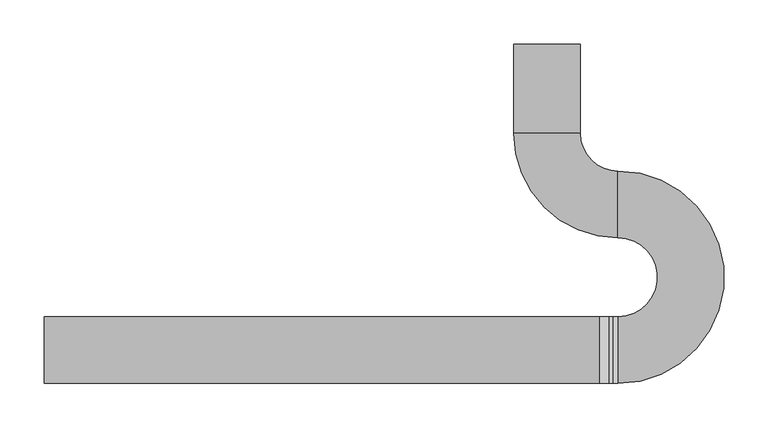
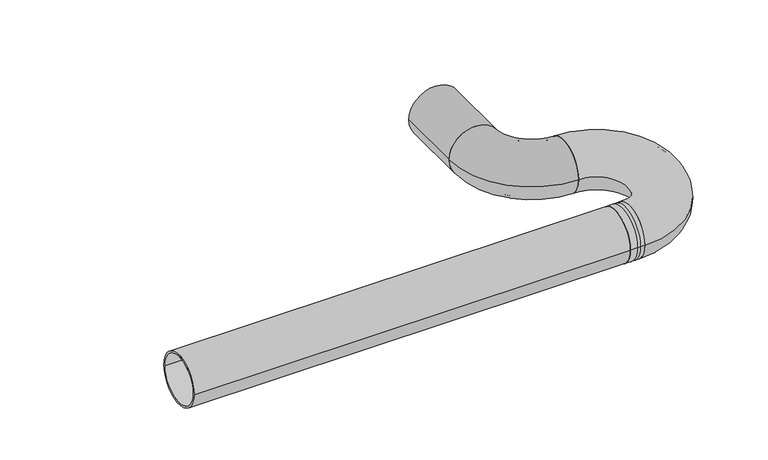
"""IFC4 building model written with IfcOpenShell, lengths in millimetres: pipe fitting geometry, Superdrain Trap : Superdrain Trap."""

from ifc_helpers import new_model, si_unit, point, frame, origin, origin_2d, place, context, project, spatial, polyline, circle_curve, ellipse_curve, trimmed, segment, composite_curve, outline, extrude, source, transform, mapped, element, save
from ifc_brep_helpers import plane_surface, cylinder_surface, revolved_surface, advanced_brep


def pipe_fitting_54a89096(model_context):
    return source(origin(), model_context, "Body", "SolidModel", [
        advanced_brep(
        [(80.0, 37.5, 0.0), (80.0, -37.5, 0.0), (74.5, -37.5, 0.0), (74.5, 37.5, 0.0), (80.0, 34.5, 0.0), (80.0, -34.5, 0.0), (74.5, 34.5, 0.0), (74.5, -34.5, 0.0), (69.5, 34.5, 0.0), (69.5, -34.5, 0.0), (59.5, 34.5, 0.0), (59.5, -34.5, 0.0), (59.5, 37.5, 0.0), (59.5, -37.5, 0.0), (69.5, 37.5, 0.0), (69.5, -37.5, 0.0)],
        [
            (0, 1, circle_curve(frame((80.0, 0.0, 0.0), z_axis=(-1.0, 0.0, 0.0), x_axis=(0.0, -1.0, 0.0)), 37.5)),
            (1, 2),
            (2, 3, circle_curve(frame((74.5, 0.0, 0.0), z_axis=(1.0, 0.0, 0.0), x_axis=(0.0, -1.0, 0.0)), 37.5)),
            (3, 0),
            (1, 0, circle_curve(frame((80.0, 0.0, 0.0), z_axis=(-1.0, 0.0, 0.0), x_axis=(0.0, -1.0, 0.0)), 37.5)),
            (3, 2, circle_curve(frame((74.5, 0.0, 0.0), z_axis=(1.0, 0.0, 0.0), x_axis=(0.0, -1.0, 0.0)), 37.5)),
            (4, 5, circle_curve(frame((80.0, 0.0, 0.0), z_axis=(-1.0, 0.0, 0.0), x_axis=(0.0, -1.0, 0.0)), 34.5)),
            (5, 1),
            (0, 4),
            (5, 4, circle_curve(frame((80.0, 0.0, 0.0), z_axis=(-1.0, 0.0, 0.0), x_axis=(0.0, -1.0, 0.0)), 34.5)),
            (6, 7, circle_curve(frame((74.5, 0.0, 0.0), z_axis=(-1.0, 0.0, 0.0), x_axis=(0.0, -1.0, 0.0)), 34.5)),
            (7, 5),
            (4, 6),
            (7, 6, circle_curve(frame((74.5, 0.0, 0.0), z_axis=(-1.0, 0.0, 0.0), x_axis=(0.0, -1.0, 0.0)), 34.5)),
            (8, 9, circle_curve(frame((69.5, 0.0, 0.0), z_axis=(-1.0, 0.0, 0.0), x_axis=(0.0, -1.0, 0.0)), 34.5)),
            (9, 7),
            (6, 8),
            (9, 8, circle_curve(frame((69.5, 0.0, 0.0), z_axis=(-1.0, 0.0, 0.0), x_axis=(0.0, -1.0, 0.0)), 34.5)),
            (10, 11, circle_curve(frame((59.5, 0.0, 0.0), z_axis=(-1.0, 0.0, 0.0), x_axis=(0.0, -1.0, 0.0)), 34.5)),
            (11, 9),
            (8, 10),
            (11, 10, circle_curve(frame((59.5, 0.0, 0.0), z_axis=(-1.0, 0.0, 0.0), x_axis=(0.0, -1.0, 0.0)), 34.5)),
            (12, 13, circle_curve(frame((59.5, 0.0, 0.0), z_axis=(-1.0, 0.0, 0.0), x_axis=(0.0, -1.0, 0.0)), 37.5)),
            (13, 11),
            (10, 12),
            (13, 12, circle_curve(frame((59.5, 0.0, 0.0), z_axis=(-1.0, 0.0, 0.0), x_axis=(0.0, -1.0, 0.0)), 37.5)),
            (14, 15, circle_curve(frame((69.5, 0.0, 0.0), z_axis=(-1.0, 0.0, 0.0), x_axis=(0.0, -1.0, 0.0)), 37.5)),
            (15, 13),
            (12, 14),
            (15, 14, circle_curve(frame((69.5, 0.0, 0.0), z_axis=(-1.0, 0.0, 0.0), x_axis=(0.0, -1.0, 0.0)), 37.5)),
            (2, 15),
            (14, 3),
        ],
        [
            cylinder_surface(frame((115.0, 0.0, 0.0), z_axis=(1.0, 0.0, 0.0), x_axis=(0.0, -1.0, 0.0)), 37.5),
            plane_surface(frame((80.0, 0.0, 0.0), z_axis=(1.0, 0.0, 0.0), x_axis=(0.0, -1.0, 0.0))),
            revolved_surface(polyline([(80.0, -34.5, 0.0), (74.5, -34.5, 0.0)]), (115.0, 0.0, 0.0), (1.0, 0.0, 0.0)),
            revolved_surface(polyline([(74.5, -34.5, 0.0), (69.5, -34.5, 0.0)]), (115.0, 0.0, 0.0), (1.0, 0.0, 0.0)),
            revolved_surface(polyline([(69.5, -34.5, 0.0), (59.5, -34.5, 0.0)]), (115.0, 0.0, 0.0), (1.0, 0.0, 0.0)),
            plane_surface(frame((59.5, 0.0, 0.0), z_axis=(-1.0, 0.0, 0.0), x_axis=(0.0, -1.0, 0.0))),
        ],
        [
            (0, [[1, 2, 3, 4]]),
            (0, [[5, -4, 6, -2]]),
            (1, [[7, 8, -1, 9]]),
            (1, [[10, -9, -5, -8]]),
            (2, [[11, 12, -7, 13]]),
            (2, [[14, -13, -10, -12]]),
            (3, [[15, 16, -11, 17]]),
            (3, [[18, -17, -14, -16]]),
            (4, [[19, 20, -15, 21]]),
            (4, [[22, -21, -18, -20]]),
            (5, [[23, 24, -19, 25]]),
            (5, [[26, -25, -22, -24]]),
            (0, [[27, 28, -23, 29]]),
            (0, [[30, -29, -26, -28]]),
            (0, [[-3, 31, -27, 32]]),
            (0, [[-6, -32, -30, -31]]),
        ],
    ),
        advanced_brep(
        [(80.0, 126.5, 0.0), (80.0, 201.5, 0.0), (80.0, 129.5, 0.0), (80.0, 198.5, 0.0), (80.0, 37.5, 0.0), (80.0, -37.5, 0.0), (80.0, 34.5, 0.0), (80.0, -34.5, 0.0)],
        [
            (0, 1, circle_curve(frame((80.0, 164.0, 0.0), z_axis=(-1.0, 0.0, 0.0), x_axis=(0.0, 1.0, 0.0)), 37.5)),
            (1, 0, circle_curve(frame((80.0, 164.0, 0.0), z_axis=(-1.0, 0.0, 0.0), x_axis=(0.0, 1.0, 0.0)), 37.5)),
            (2, 3, circle_curve(frame((80.0, 164.0, 0.0), z_axis=(1.0, 0.0, 0.0), x_axis=(0.0, 1.0, 0.0)), 34.5)),
            (3, 2, circle_curve(frame((80.0, 164.0, 0.0), z_axis=(1.0, 0.0, 0.0), x_axis=(0.0, 1.0, 0.0)), 34.5)),
            (4, 5, circle_curve(frame((80.0, 0.0, 0.0), z_axis=(-1.0, 0.0, 0.0), x_axis=(0.0, -1.0, 0.0)), 37.5)),
            (5, 4, circle_curve(frame((80.0, 0.0, 0.0), z_axis=(-1.0, 0.0, 0.0), x_axis=(0.0, -1.0, 0.0)), 37.5)),
            (6, 7, circle_curve(frame((80.0, 0.0, 0.0), z_axis=(1.0, 0.0, 0.0), x_axis=(0.0, -1.0, 0.0)), 34.5)),
            (7, 6, circle_curve(frame((80.0, 0.0, 0.0), z_axis=(1.0, 0.0, 0.0), x_axis=(0.0, -1.0, 0.0)), 34.5)),
            (7, 3, circle_curve(frame((80.0, 82.0, 0.0), z_axis=(0.0, 0.0, 1.0), x_axis=(0.0, 1.0, 0.0)), 116.5)),
            (2, 6, circle_curve(frame((80.0, 82.0, 0.0), z_axis=(0.0, 0.0, -1.0), x_axis=(0.0, 1.0, 0.0)), 47.5)),
            (5, 1, circle_curve(frame((80.0, 82.0, 0.0), z_axis=(0.0, 0.0, 1.0), x_axis=(0.0, 1.0, 0.0)), 119.5)),
            (0, 4, circle_curve(frame((80.0, 82.0, 0.0), z_axis=(0.0, 0.0, -1.0), x_axis=(0.0, 1.0, 0.0)), 44.5)),
        ],
        [
            plane_surface(frame((80.0, 164.0, 0.0), z_axis=(-1.0, 0.0, 0.0), x_axis=(0.0, 0.0, 1.0))),
            plane_surface(frame((80.0, 0.0, 0.0), z_axis=(-1.0, 0.0, 0.0), x_axis=(0.0, 0.0, 1.0))),
            revolved_surface(trimmed(ellipse_curve(frame((80.0, 164.0, 0.0), z_axis=(1.0, 0.0, 0.0), x_axis=(0.0, 1.0, 0.0)), 34.5, 34.5), [point((80.0, 129.5, 0.0))], [point((80.0, 198.5, 0.0))], True, "CARTESIAN"), (80.0, 82.0, 0.0), (0.0, 0.0, -1.0)),
            revolved_surface(trimmed(ellipse_curve(frame((80.0, 164.0, 0.0), z_axis=(1.0, 0.0, 0.0), x_axis=(0.0, 1.0, 0.0)), 34.5, 34.5), [point((80.0, 198.5, 0.0))], [point((80.0, 129.5, 0.0))], True, "CARTESIAN"), (80.0, 82.0, 0.0), (0.0, 0.0, -1.0)),
            revolved_surface(trimmed(ellipse_curve(frame((80.0, 164.0, 0.0), z_axis=(-1.0, 0.0, 0.0), x_axis=(0.0, 1.0, 0.0)), 37.5, 37.5), [point((80.0, 126.5, 0.0))], [point((80.0, 201.5, 0.0))], True, "CARTESIAN"), (80.0, 82.0, 0.0), (0.0, 0.0, -1.0)),
            revolved_surface(trimmed(ellipse_curve(frame((80.0, 164.0, 0.0), z_axis=(-1.0, 0.0, 0.0), x_axis=(0.0, 1.0, 0.0)), 37.5, 37.5), [point((80.0, 201.5, 0.0))], [point((80.0, 126.5, 0.0))], True, "CARTESIAN"), (80.0, 82.0, 0.0), (0.0, 0.0, -1.0)),
        ],
        [
            (0, [[1, 2], [3, 4]]),
            (1, [[5, 6], [7, 8]]),
            (2, [[9, -3, 10, -8]]),
            (3, [[-10, -4, -9, -7]]),
            (4, [[11, -1, 12, -6]]),
            (5, [[-12, -2, -11, -5]]),
        ],
    ),
        advanced_brep(
        [(-37.5, 244.0, 0.0), (37.5, 244.0, 0.0), (-34.5, 244.0, 0.0), (34.5, 244.0, 0.0), (80.0, 126.5, 0.0), (80.0, 201.5, 0.0), (80.0, 129.5, 0.0), (80.0, 198.5, 0.0)],
        [
            (0, 1, circle_curve(frame((0.0, 244.0, 0.0), z_axis=(0.0, 1.0, 0.0), x_axis=(1.0, 0.0, 0.0)), 37.5)),
            (1, 0, circle_curve(frame((0.0, 244.0, 0.0), z_axis=(0.0, 1.0, 0.0), x_axis=(1.0, 0.0, 0.0)), 37.5)),
            (2, 3, circle_curve(frame((0.0, 244.0, 0.0), z_axis=(0.0, -1.0, 0.0), x_axis=(1.0, 0.0, 0.0)), 34.5)),
            (3, 2, circle_curve(frame((0.0, 244.0, 0.0), z_axis=(0.0, -1.0, 0.0), x_axis=(1.0, 0.0, 0.0)), 34.5)),
            (4, 5, circle_curve(frame((80.0, 164.0, 0.0), z_axis=(1.0, 0.0, 0.0), x_axis=(0.0, 1.0, 0.0)), 37.5)),
            (5, 4, circle_curve(frame((80.0, 164.0, 0.0), z_axis=(1.0, 0.0, 0.0), x_axis=(0.0, 1.0, 0.0)), 37.5)),
            (6, 7, circle_curve(frame((80.0, 164.0, 0.0), z_axis=(-1.0, 0.0, 0.0), x_axis=(0.0, 1.0, 0.0)), 34.5)),
            (7, 6, circle_curve(frame((80.0, 164.0, 0.0), z_axis=(-1.0, 0.0, 0.0), x_axis=(0.0, 1.0, 0.0)), 34.5)),
            (5, 1, circle_curve(frame((80.0, 244.0, 0.0), z_axis=(0.0, 0.0, -1.0), x_axis=(-1.0, 0.0, 0.0)), 42.5)),
            (0, 4, circle_curve(frame((80.0, 244.0, 0.0), z_axis=(0.0, 0.0, 1.0), x_axis=(-1.0, 0.0, 0.0)), 117.5)),
            (7, 3, circle_curve(frame((80.0, 244.0, 0.0), z_axis=(0.0, 0.0, -1.0), x_axis=(-1.0, 0.0, 0.0)), 45.5)),
            (2, 6, circle_curve(frame((80.0, 244.0, 0.0), z_axis=(0.0, 0.0, 1.0), x_axis=(-1.0, 0.0, 0.0)), 114.5)),
        ],
        [
            plane_surface(frame((0.0, 244.0, 0.0), z_axis=(0.0, 1.0, 0.0), x_axis=(0.0, 0.0, 1.0))),
            plane_surface(frame((80.0, 164.0, 0.0), z_axis=(1.0, 0.0, 0.0), x_axis=(0.0, 0.0, 1.0))),
            revolved_surface(trimmed(ellipse_curve(frame((0.0, 244.0, 0.0), z_axis=(0.0, 1.0, 0.0), x_axis=(1.0, 0.0, 0.0)), 37.5, 37.5), [point((-37.5, 244.0, 0.0))], [point((37.5, 244.0, 0.0))], True, "CARTESIAN"), (80.0, 244.0, 0.0), (0.0, 0.0, 1.0)),
            revolved_surface(trimmed(ellipse_curve(frame((0.0, 244.0, 0.0), z_axis=(0.0, 1.0, 0.0), x_axis=(1.0, 0.0, 0.0)), 37.5, 37.5), [point((37.5, 244.0, 0.0))], [point((-37.5, 244.0, 0.0))], True, "CARTESIAN"), (80.0, 244.0, 0.0), (0.0, 0.0, 1.0)),
            revolved_surface(trimmed(ellipse_curve(frame((0.0, 244.0, 0.0), z_axis=(0.0, -1.0, 0.0), x_axis=(1.0, 0.0, 0.0)), 34.5, 34.5), [point((-34.5, 244.0, 0.0))], [point((34.5, 244.0, 0.0))], True, "CARTESIAN"), (80.0, 244.0, 0.0), (0.0, 0.0, 1.0)),
            revolved_surface(trimmed(ellipse_curve(frame((0.0, 244.0, 0.0), z_axis=(0.0, -1.0, 0.0), x_axis=(1.0, 0.0, 0.0)), 34.5, 34.5), [point((34.5, 244.0, 0.0))], [point((-34.5, 244.0, 0.0))], True, "CARTESIAN"), (80.0, 244.0, 0.0), (0.0, 0.0, 1.0)),
        ],
        [
            (0, [[1, 2], [3, 4]]),
            (1, [[5, 6], [7, 8]]),
            (2, [[9, -1, 10, -6]]),
            (3, [[-10, -2, -9, -5]]),
            (4, [[11, -3, 12, -8]]),
            (5, [[-12, -4, -11, -7]]),
        ],
    ),
        extrude(outline(composite_curve([segment(trimmed(circle_curve(origin_2d(), 37.5), [point((37.5, 0.0))], [point((-37.5, 0.0))], False, "CARTESIAN"), True, "CONTINUOUS"), segment(trimmed(circle_curve(origin_2d(), 37.5), [point((-37.5, 0.0))], [point((37.5, 0.0))], False, "CARTESIAN"), True, "CONTINUOUS")], self_intersect=False), holes=[composite_curve([segment(trimmed(circle_curve(origin_2d(), 34.5), [point((34.5, 0.0))], [point((-34.5, 0.0))], True, "CARTESIAN"), True, "CONTINUOUS"), segment(trimmed(circle_curve(origin_2d(), 34.5), [point((-34.5, 0.0))], [point((34.5, 0.0))], True, "CARTESIAN"), True, "CONTINUOUS")], self_intersect=False)]), frame((-565.5, 0.0, 0.0), z_axis=(1.0, 0.0, 0.0), x_axis=(0.0, 1.0, 0.0)), (0.0, 0.0, 1.0), 625.0),
        extrude(outline(composite_curve([segment(trimmed(circle_curve(origin_2d(), 37.5), [point((0.0, 37.5))], [point((0.0, -37.5))], False, "CARTESIAN"), True, "CONTINUOUS"), segment(trimmed(circle_curve(origin_2d(), 37.5), [point((0.0, -37.5))], [point((0.0, 37.5))], False, "CARTESIAN"), True, "CONTINUOUS")], self_intersect=False), holes=[composite_curve([segment(trimmed(circle_curve(origin_2d(), 34.5), [point((0.0, 34.5))], [point((0.0, -34.5))], True, "CARTESIAN"), True, "CONTINUOUS"), segment(trimmed(circle_curve(origin_2d(), 34.5), [point((0.0, -34.5))], [point((0.0, 34.5))], True, "CARTESIAN"), True, "CONTINUOUS")], self_intersect=False)]), frame((0.0, 244.0, 0.0), z_axis=(0.0, 1.0, 0.0), x_axis=(0.0, 0.0, 1.0)), (0.0, 0.0, 1.0), 100.0),
    ])


if __name__ == "__main__":
    model = new_model("IFC4")
    model_context = context("Model", 3, world=origin())
    ifc_project = project(units=[si_unit("LENGTHUNIT", "METRE", prefix="MILLI")], contexts=[model_context])
    site = spatial("IfcSite", under=ifc_project)
    building = spatial("IfcBuilding", under=site)
    placement = place(None, origin())
    pipe_fitting_shape = pipe_fitting_54a89096(model_context)
    element("IfcPipeFitting", 1, ObjectType="Superdrain Trap : Superdrain Trap", at=placement, inside=building, context=model_context, shape_type="MappedRepresentation", body=[
        mapped(pipe_fitting_shape, transform((0.0, 0.0, 0.0), x_axis=(1.0, 0.0, 0.0), y_axis=(0.0, 1.0, 0.0), z_axis=(0.0, 0.0, 1.0))),
    ])
    save(model, "model.ifc")
